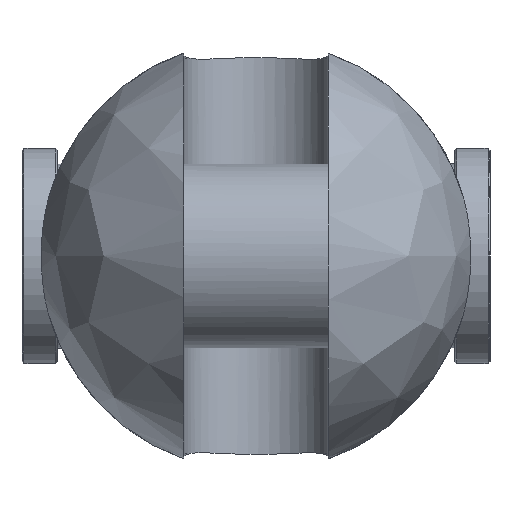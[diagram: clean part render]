
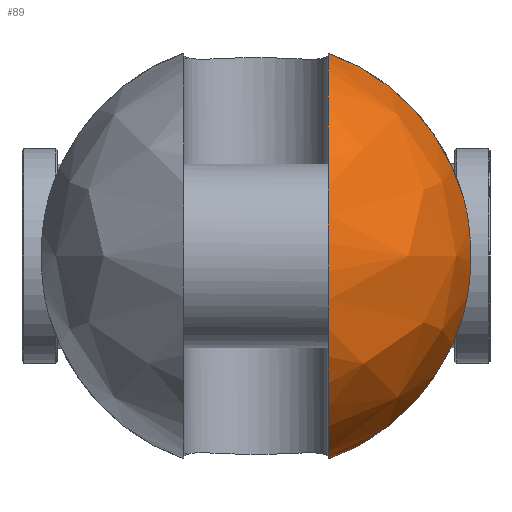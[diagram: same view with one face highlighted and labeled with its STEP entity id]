
A CAD part, left-side view. The second image highlights one B-rep face of the part: STEP entity #89.
In plain terms, the highlighted free-form (B-spline) face has degree [2, 2] with [9, 5] control points.
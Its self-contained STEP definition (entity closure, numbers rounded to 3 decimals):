
#89=ADVANCED_FACE('',(#164),#1306,.T.);
#164=FACE_OUTER_BOUND('',#249,.T.);
#249=EDGE_LOOP('',(#583,#584,#585,#586));
#583=ORIENTED_EDGE('',*,*,#807,.T.);
#584=ORIENTED_EDGE('',*,*,#835,.F.);
#585=ORIENTED_EDGE('',*,*,#847,.T.);
#586=ORIENTED_EDGE('',*,*,#827,.F.);
#807=EDGE_CURVE('',#1192,#1191,#1045,.T.);
#827=EDGE_CURVE('',#1192,#1204,#1055,.T.);
#835=EDGE_CURVE('',#1211,#1191,#1056,.T.);
#847=EDGE_CURVE('',#1211,#1204,#963,.T.);
#963=B_SPLINE_CURVE_WITH_KNOTS('',3,(#3152,#3153,#3154,#3155,#3156,#3157,
#3158,#3159,#3160,#3161,#3162,#3163,#3164,#3165),.UNSPECIFIED.,.F.,.F.,
(4,2,2,2,2,2,4),(0.,3.599,9.525,15.451,21.378,
27.304,30.903),.UNSPECIFIED.);
#1045=(
BOUNDED_CURVE()
B_SPLINE_CURVE(2,(#2896,#2897,#2898,#2899,#2900),.UNSPECIFIED.,.F.,.F.)
B_SPLINE_CURVE_WITH_KNOTS((3,2,3),(-162.72,-81.36,
0.),.UNSPECIFIED.)
CURVE()
GEOMETRIC_REPRESENTATION_ITEM()
RATIONAL_B_SPLINE_CURVE((1.,0.707,1.,0.707,1.))
REPRESENTATION_ITEM('')
);
#1055=(
BOUNDED_CURVE()
B_SPLINE_CURVE(2,(#3022,#3023,#3024),.UNSPECIFIED.,.F.,.F.)
B_SPLINE_CURVE_WITH_KNOTS((3,3),(0.,52.79),.UNSPECIFIED.)
CURVE()
GEOMETRIC_REPRESENTATION_ITEM()
RATIONAL_B_SPLINE_CURVE((1.,0.887,1.))
REPRESENTATION_ITEM('')
);
#1056=(
BOUNDED_CURVE()
B_SPLINE_CURVE(2,(#3079,#3080,#3081),.UNSPECIFIED.,.F.,.F.)
B_SPLINE_CURVE_WITH_KNOTS((3,3),(0.,52.79),.UNSPECIFIED.)
CURVE()
GEOMETRIC_REPRESENTATION_ITEM()
RATIONAL_B_SPLINE_CURVE((1.,0.887,1.))
REPRESENTATION_ITEM('')
);
#1191=VERTEX_POINT('',#2837);
#1192=VERTEX_POINT('',#2838);
#1204=VERTEX_POINT('',#2850);
#1211=VERTEX_POINT('',#2857);
#1306=(
BOUNDED_SURFACE()
B_SPLINE_SURFACE(2,2,((#2445,#2446,#2447,#2448,#2449),(#2450,#2451,#2452,
#2453,#2454),(#2455,#2456,#2457,#2458,#2459),(#2460,#2461,#2462,#2463,#2464),
(#2465,#2466,#2467,#2468,#2469),(#2470,#2471,#2472,#2473,#2474),(#2475,
#2476,#2477,#2478,#2479),(#2480,#2481,#2482,#2483,#2484),(#2485,#2486,#2487,
#2488,#2489)),.UNSPECIFIED.,.T.,.F.,.F.)
B_SPLINE_SURFACE_WITH_KNOTS((3,2,2,2,3),(3,2,3),(0.,86.394,172.788,
259.181,345.575),(0.,86.394,172.788),
 .UNSPECIFIED.)
GEOMETRIC_REPRESENTATION_ITEM()
RATIONAL_B_SPLINE_SURFACE(((1.,0.707,1.,0.707,1.),
(0.707,0.5,0.707,0.5,0.707),(1.,0.707,
1.,0.707,1.),(0.707,0.5,0.707,0.5,0.707),
(1.,0.707,1.,0.707,1.),(0.707,0.5,0.707,
0.5,0.707),(1.,0.707,1.,0.707,1.),(0.707,
0.5,0.707,0.5,0.707),(1.,0.707,1.,0.707,
1.)))
REPRESENTATION_ITEM('')
SURFACE()
);
#2445=CARTESIAN_POINT('',(-79.5,0.,0.));
#2446=CARTESIAN_POINT('',(-79.5,55.,0.));
#2447=CARTESIAN_POINT('',(-24.5,55.,0.));
#2448=CARTESIAN_POINT('',(30.5,55.,0.));
#2449=CARTESIAN_POINT('',(30.5,0.,0.));
#2450=CARTESIAN_POINT('',(-79.5,0.,0.));
#2451=CARTESIAN_POINT('',(-79.5,55.,55.));
#2452=CARTESIAN_POINT('',(-24.5,55.,55.));
#2453=CARTESIAN_POINT('',(30.5,55.,55.));
#2454=CARTESIAN_POINT('',(30.5,0.,0.));
#2455=CARTESIAN_POINT('',(-79.5,0.,0.));
#2456=CARTESIAN_POINT('',(-79.5,0.,55.));
#2457=CARTESIAN_POINT('',(-24.5,0.,55.));
#2458=CARTESIAN_POINT('',(30.5,0.,55.));
#2459=CARTESIAN_POINT('',(30.5,0.,0.));
#2460=CARTESIAN_POINT('',(-79.5,0.,0.));
#2461=CARTESIAN_POINT('',(-79.5,-55.,55.));
#2462=CARTESIAN_POINT('',(-24.5,-55.,55.));
#2463=CARTESIAN_POINT('',(30.5,-55.,55.));
#2464=CARTESIAN_POINT('',(30.5,0.,0.));
#2465=CARTESIAN_POINT('',(-79.5,0.,0.));
#2466=CARTESIAN_POINT('',(-79.5,-55.,0.));
#2467=CARTESIAN_POINT('',(-24.5,-55.,0.));
#2468=CARTESIAN_POINT('',(30.5,-55.,0.));
#2469=CARTESIAN_POINT('',(30.5,0.,0.));
#2470=CARTESIAN_POINT('',(-79.5,0.,0.));
#2471=CARTESIAN_POINT('',(-79.5,-55.,-55.));
#2472=CARTESIAN_POINT('',(-24.5,-55.,-55.));
#2473=CARTESIAN_POINT('',(30.5,-55.,-55.));
#2474=CARTESIAN_POINT('',(30.5,0.,0.));
#2475=CARTESIAN_POINT('',(-79.5,0.,0.));
#2476=CARTESIAN_POINT('',(-79.5,0.,-55.));
#2477=CARTESIAN_POINT('',(-24.5,0.,-55.));
#2478=CARTESIAN_POINT('',(30.5,0.,-55.));
#2479=CARTESIAN_POINT('',(30.5,0.,0.));
#2480=CARTESIAN_POINT('',(-79.5,0.,0.));
#2481=CARTESIAN_POINT('',(-79.5,55.,-55.));
#2482=CARTESIAN_POINT('',(-24.5,55.,-55.));
#2483=CARTESIAN_POINT('',(30.5,55.,-55.));
#2484=CARTESIAN_POINT('',(30.5,0.,0.));
#2485=CARTESIAN_POINT('',(-79.5,0.,0.));
#2486=CARTESIAN_POINT('',(-79.5,55.,0.));
#2487=CARTESIAN_POINT('',(-24.5,55.,0.));
#2488=CARTESIAN_POINT('',(30.5,55.,0.));
#2489=CARTESIAN_POINT('',(30.5,0.,0.));
#2837=CARTESIAN_POINT('',(-24.5,-18.5,-51.795));
#2838=CARTESIAN_POINT('',(-24.5,-18.5,51.795));
#2850=CARTESIAN_POINT('',(-24.5,-53.038,14.56));
#2857=CARTESIAN_POINT('',(-24.5,-53.038,-14.56));
#2896=CARTESIAN_POINT('',(-24.5,-18.5,51.795));
#2897=CARTESIAN_POINT('',(-76.295,-18.5,51.795));
#2898=CARTESIAN_POINT('',(-76.295,-18.5,0.));
#2899=CARTESIAN_POINT('',(-76.295,-18.5,-51.795));
#2900=CARTESIAN_POINT('',(-24.5,-18.5,-51.795));
#3022=CARTESIAN_POINT('',(-24.5,-18.5,51.795));
#3023=CARTESIAN_POINT('',(-24.5,-45.459,42.166));
#3024=CARTESIAN_POINT('',(-24.5,-53.038,14.56));
#3079=CARTESIAN_POINT('',(-24.5,-53.038,-14.56));
#3080=CARTESIAN_POINT('',(-24.5,-45.459,-42.166));
#3081=CARTESIAN_POINT('',(-24.5,-18.5,-51.795));
#3152=CARTESIAN_POINT('',(-24.5,-53.038,-14.56));
#3153=CARTESIAN_POINT('',(-25.102,-53.316,-13.547));
#3154=CARTESIAN_POINT('',(-25.647,-53.565,-12.486));
#3155=CARTESIAN_POINT('',(-26.91,-54.141,-9.59));
#3156=CARTESIAN_POINT('',(-27.513,-54.412,-7.692));
#3157=CARTESIAN_POINT('',(-28.308,-54.769,-3.845));
#3158=CARTESIAN_POINT('',(-28.5,-54.854,-1.896));
#3159=CARTESIAN_POINT('',(-28.5,-54.854,1.896));
#3160=CARTESIAN_POINT('',(-28.308,-54.769,3.845));
#3161=CARTESIAN_POINT('',(-27.513,-54.412,7.692));
#3162=CARTESIAN_POINT('',(-26.91,-54.141,9.59));
#3163=CARTESIAN_POINT('',(-25.647,-53.565,12.486));
#3164=CARTESIAN_POINT('',(-25.102,-53.316,13.547));
#3165=CARTESIAN_POINT('',(-24.5,-53.038,14.56));
